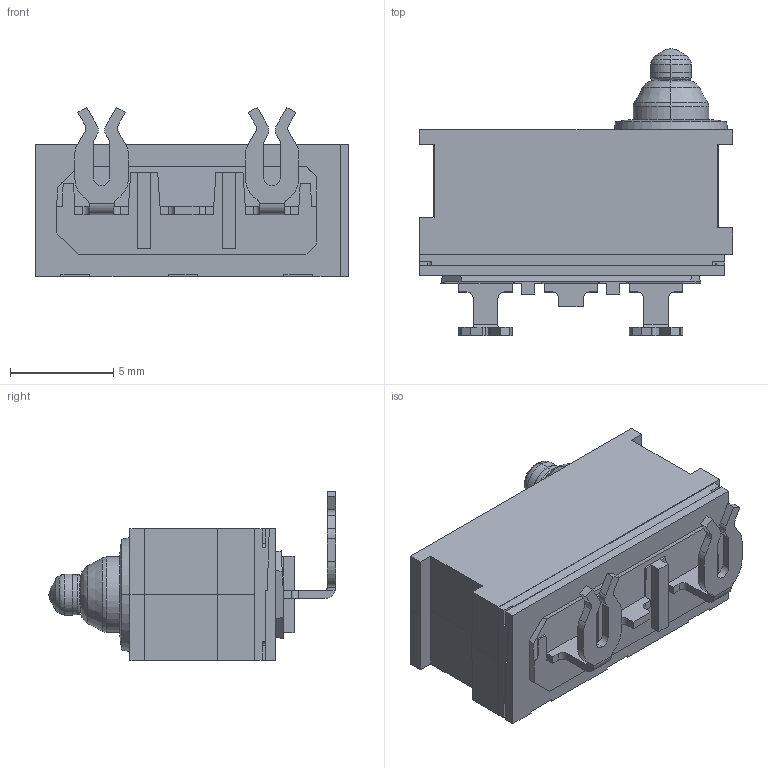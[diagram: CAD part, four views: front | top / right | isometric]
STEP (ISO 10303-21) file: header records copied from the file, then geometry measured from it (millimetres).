
FILE_DESCRIPTION (( 'STEP AP214' ), '1' );
FILE_NAME ('SPVQA10302.STEP', '2018-06-21T06:11:51', ( '' ), ( '' ), 'SwSTEP 2.0', 'SolidWorks 2017', '' );
FILE_SCHEMA (( 'AUTOMOTIVE_DESIGN' ));
Length unit declared in the file: millimetre
Products named in the file (1): SPVQA10302
Bounding box: 15.2 x 13.91 x 8.2 mm (x, y, z)
Volume: 704.2 mm3; surface area: 656.1 mm2
Topology: 1 solids, 3 shells, 352 faces, 959 edges, 627 vertices
Faces by surface type: plane 255, cylinder 57, cone 22, bspline 18
Entity records: 12561 total; most frequent: CARTESIAN_POINT 2323, ORIENTED_EDGE 1918, DIRECTION 1755, EDGE_CURVE 959, LINE 769, VECTOR 769, VERTEX_POINT 627, AXIS2_PLACEMENT_3D 493
